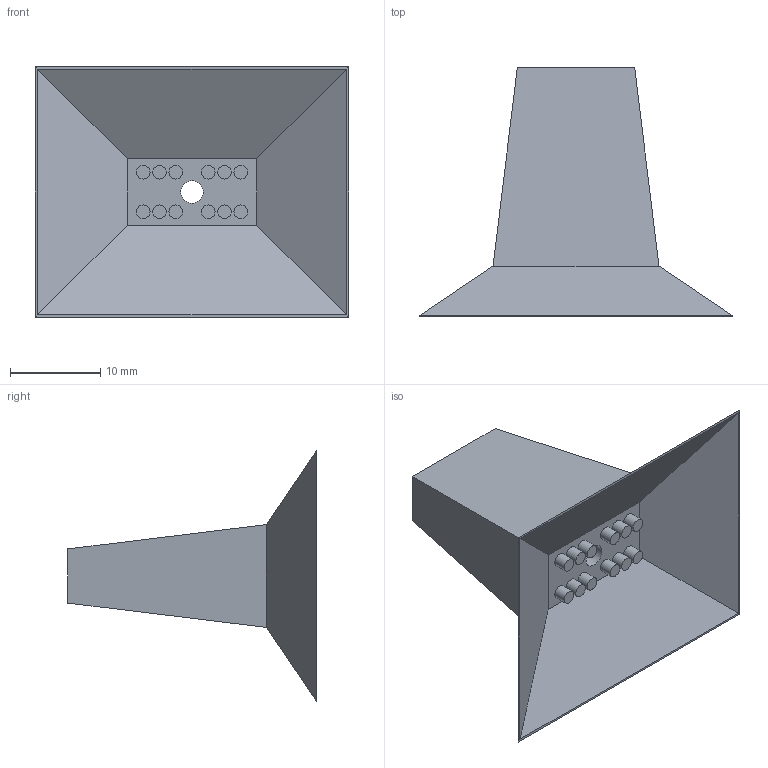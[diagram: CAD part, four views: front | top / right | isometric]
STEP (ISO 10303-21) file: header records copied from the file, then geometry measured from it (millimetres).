
FILE_DESCRIPTION (( 'STEP AP214' ), '1' );
FILE_NAME ('10RF.3520.001.STEP', '2025-04-30T17:04:12', ( '' ), ( '' ), 'SwSTEP 2.0', 'SolidWorks 2018', '' );
FILE_SCHEMA (( 'AUTOMOTIVE_DESIGN' ));
Length unit declared in the file: millimetre
Products named in the file (1): 10RF.3520.001
Bounding box: 34.71 x 27.5 x 27.71 mm (x, y, z)
Volume: 3471.4 mm3; surface area: 3394.8 mm2
Topology: 1 solids, 1 shells, 40 faces, 72 edges, 47 vertices
Faces by surface type: plane 27, cylinder 13
Full cylindrical faces by diameter (mm): 1.5 x12, 2.5 x1
Entity records: 942 total; most frequent: DIRECTION 166, CARTESIAN_POINT 145, ORIENTED_EDGE 116, EDGE_LOOP 68, AXIS2_PLACEMENT_3D 67, EDGE_CURVE 58, FACE_OUTER_BOUND 53, VERTEX_POINT 46
